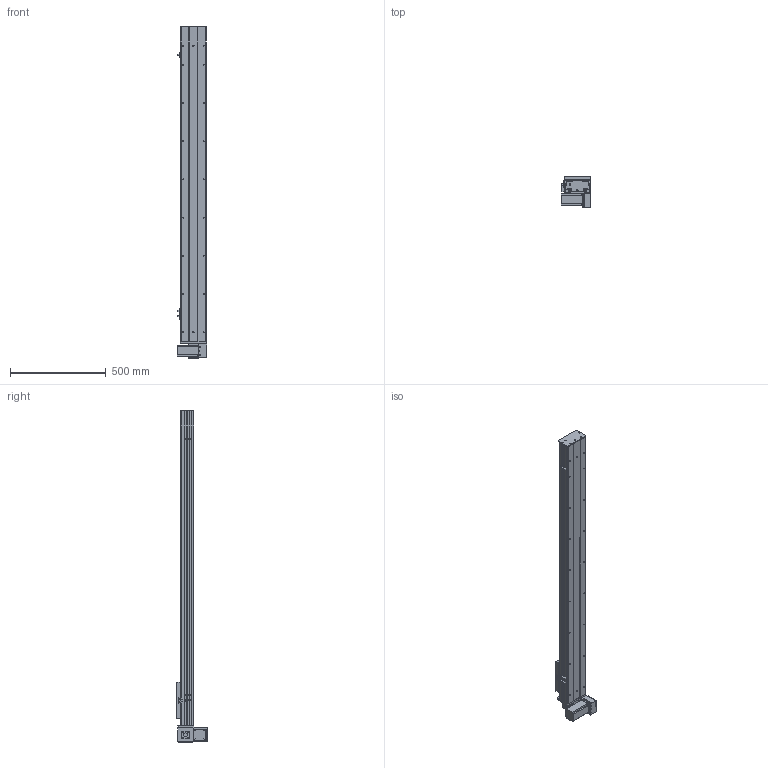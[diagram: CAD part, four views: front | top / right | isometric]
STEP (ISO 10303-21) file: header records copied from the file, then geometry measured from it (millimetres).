
FILE_DESCRIPTION (( 'STEP AP203' ), '1' );
FILE_NAME ('Y135CB-D90-S1350-BM-P400W.STEP', '2020-02-19T01:26:43', ( '微软用户' ), ( '微软中国' ), 'SwSTEP 2.0', 'SolidWorks 2017', '' );
FILE_SCHEMA (( 'CONFIG_CONTROL_DESIGN' ));
Length unit declared in the file: millimetre
Products named in the file (18): 5C--俋欶; 0B-源倛裔啣; C-雄赽釱--; 0B-萇儂楊擘啣; Y10B--々湍喘謫眊--666; san松下电机400不带刹车----; 00B-俋欶BM--; 5CB --掛极耜裔啣-; Y10B-耜蚾蟀諉啣----; C-詩湍揤踡え-陔; Y135CB-耜裔; Y135CB-D90-S1350-BM-P400W; 135CB--詩湍-CE; 135CB---遴掛极.-; Y100-135俋离換覜ん--; 35CB---喘謫眊楊擘啣; Y135C-陔俋离換覜結え-; 0B-埴倛裔啣
Assembly tree (21 placements, depth 2):
  Y135CB-D90-S1350-BM-P400W
    Y135CB-耜裔
    135CB---遴掛极.-
    35CB---喘謫眊楊擘啣
    0B-埴倛裔啣
    0B-源倛裔啣
    0B-萇儂楊擘啣
    san松下电机400不带刹车----
    5CB --掛极耜裔啣-  x2
    C-詩湍揤踡え-陔  x2
    135CB--詩湍-CE
    Y100-135俋离換覜ん--  x3
    Y135C-陔俋离換覜結え-
    5C--俋欶
    C-雄赽釱--
    Y10B--々湍喘謫眊--666
    00B-俋欶BM--
    Y10B-耜蚾蟀諉啣----
Bounding box: 157 x 163.3 x 1738 mm (x, y, z)
Volume: 5295314.7 mm3; surface area: 2081128.7 mm2
Topology: 21 solids, 21 shells, 953 faces, 2563 edges, 1698 vertices
Faces by surface type: cylinder 481, plane 456, cone 16
Entity records: 29753 total; most frequent: DIRECTION 4943, CARTESIAN_POINT 4900, ORIENTED_EDGE 4602, EDGE_CURVE 2301, AXIS2_PLACEMENT_3D 1805, VERTEX_POINT 1526, LINE 1333, VECTOR 1333
